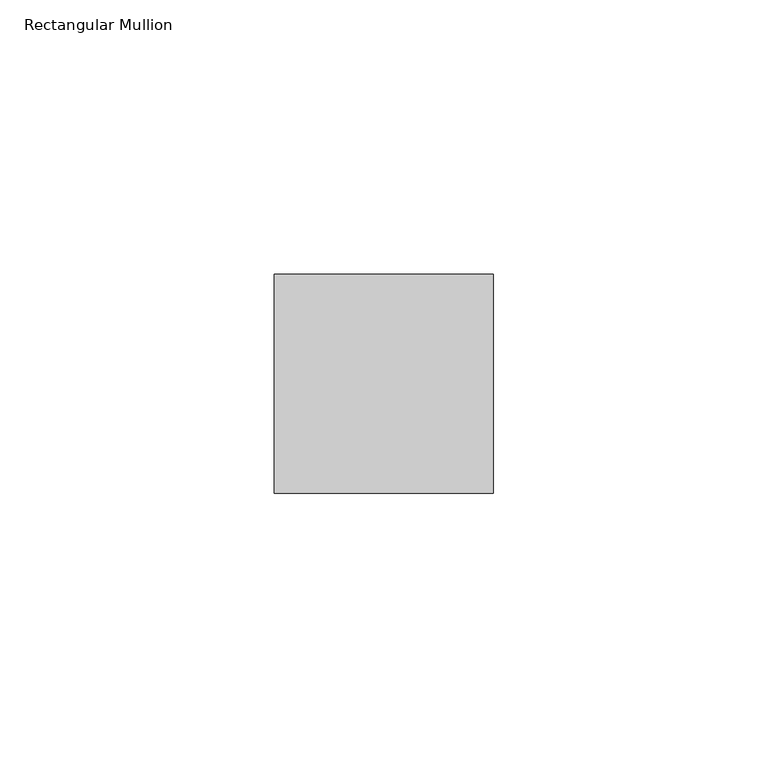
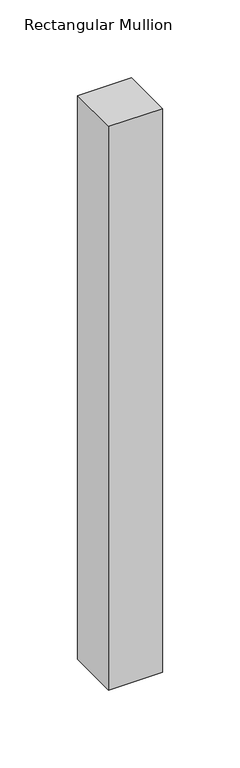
"""IFC4 building model written with IfcOpenShell, lengths in millimetres: member geometry, Rectangular Mullion : Danpal_NM_MiddleH-Mullion."""

import ifcopenshell
import ifcopenshell.guid

model = None  # the IFC model being written
_history = None  # IfcOwnerHistory: only IFC2X3 demands one
_inside = {}  # id of a spatial element -> (the spatial element, [elements in it])
_under = {}  # id of a project, library or spatial element -> (it, [spatial elements below it])
_declared = {}  # id of a project -> (the project, [libraries it declares])
_typed = {}  # id of a type object -> (the type object, [elements of that type])
_made_of = {}  # id of a material, layer set ... -> (it, [elements and type objects made of it])


def new_model(schema):
    """Start an empty IFC model of exactly this schema.

    Asked for "IFC4X3", IfcOpenShell would pick the latest addendum, in which some entities
    have other attributes; the version numbers below select the first issue.
    IFC2X3 requires an IfcOwnerHistory on every rooted entity: one is made here for all.
    """
    global model, _history
    if schema == "IFC4X3":
        model = ifcopenshell.file(schema_version=(4, 3, 0, 0))
    else:
        model = ifcopenshell.file(schema=schema)
    _inside.clear()
    _under.clear()
    _declared.clear()
    _typed.clear()
    _made_of.clear()
    _history = None
    if model.schema == "IFC2X3":
        org = make("IfcOrganization", Name="unknown")
        user = make(
            "IfcPersonAndOrganization",
            ThePerson=make("IfcPerson", FamilyName="unknown"),
            TheOrganization=org,
        )
        app = make(
            "IfcApplication",
            ApplicationDeveloper=org,
            Version="unknown",
            ApplicationFullName="unknown",
            ApplicationIdentifier="unknown",
        )
        _history = make(
            "IfcOwnerHistory",
            OwningUser=user,
            OwningApplication=app,
            ChangeAction="ADDED",
            CreationDate=0,
        )
    return model


def make(cls, **values):
    """One entity of the class cls with the attributes given. An attribute that is None is left unset."""
    return model.create_entity(
        cls, **{name: value for name, value in values.items() if value is not None}
    )


def rooted(cls, **values):
    """An entity with a GlobalId (a new one), such as an element, a storey or a relation."""
    return make(cls, GlobalId=ifcopenshell.guid.new(), OwnerHistory=_history, **values)


def si_unit(unit_type, name, prefix=None):
    """IfcSIUnit, for example si_unit("LENGTHUNIT", "METRE", prefix="MILLI")."""
    return make("IfcSIUnit", UnitType=unit_type, Prefix=prefix, Name=name)


def assignment(units):
    """IfcUnitAssignment: the units of a project."""
    return None if units is None else make("IfcUnitAssignment", Units=units)


def point(xyz):
    """IfcCartesianPoint."""
    return None if xyz is None else make("IfcCartesianPoint", Coordinates=xyz)


def direction(xyz):
    """IfcDirection."""
    return None if xyz is None else make("IfcDirection", DirectionRatios=xyz)


def frame(location, z_axis=None, x_axis=None):
    """IfcAxis2Placement3D, a coordinate frame: its origin and axes. An axis left out is left unset."""
    return make(
        "IfcAxis2Placement3D",
        Location=point(location),
        Axis=direction(z_axis),
        RefDirection=direction(x_axis),
    )


def origin():
    """The frame at (0, 0, 0) with its axes left unset."""
    return frame((0.0, 0.0, 0.0))


def place(relative_to, where):
    """IfcLocalPlacement: puts the frame where relative to a parent placement (None: the world)."""
    return make(
        "IfcLocalPlacement", PlacementRelTo=relative_to, RelativePlacement=where
    )


def context(
    kind, dimensions, precision=None, world=None, true_north=None, identifier=None
):
    """IfcGeometricRepresentationContext, for example the 3D "Model" context."""
    return make(
        "IfcGeometricRepresentationContext",
        ContextIdentifier=identifier,
        ContextType=kind,
        CoordinateSpaceDimension=dimensions,
        Precision=precision,
        WorldCoordinateSystem=world,
        TrueNorth=true_north,
    )


def project(units=None, contexts=None):
    """IfcProject with its units and contexts."""
    return rooted(
        "IfcProject",
        Name="project",
        RepresentationContexts=contexts,
        UnitsInContext=assignment(units),
    )


def spatial(cls, under=None, at=None, **own):
    """A site, building, storey or space (cls), placed at a placement, below another one or the project."""
    s = rooted(cls, ObjectPlacement=at, **own)
    if under is not None:
        _under.setdefault(under.id(), (under, []))[1].append(s)
    return s


def polyline(points):
    """IfcPolyline through the points."""
    return make("IfcPolyline", Points=[point(p) for p in points])


def outline(outer, holes=None, kind="AREA"):
    """IfcArbitraryClosedProfileDef: a profile drawn as a closed curve; with holes, ...WithVoids."""
    if holes is None:
        return make("IfcArbitraryClosedProfileDef", ProfileType=kind, OuterCurve=outer)
    return make(
        "IfcArbitraryProfileDefWithVoids",
        ProfileType=kind,
        OuterCurve=outer,
        InnerCurves=holes,
    )


def extrude(swept, where, along, depth):
    """IfcExtrudedAreaSolid: the profile swept, set in the frame where, extruded along a direction by depth."""
    return make(
        "IfcExtrudedAreaSolid",
        SweptArea=swept,
        Position=where,
        ExtrudedDirection=direction(along),
        Depth=depth,
    )


def shape(context_of_items, identifier, shape_type, items):
    """IfcShapeRepresentation: the items that make up one representation, for example the "Body"."""
    return make(
        "IfcShapeRepresentation",
        ContextOfItems=context_of_items,
        RepresentationIdentifier=identifier,
        RepresentationType=shape_type,
        Items=items,
    )


def source(mapping_origin, context_of_items, identifier, shape_type, items):
    """IfcRepresentationMap: a shape defined once, which mapped items show again and again."""
    return make(
        "IfcRepresentationMap",
        MappingOrigin=mapping_origin,
        MappedRepresentation=shape(context_of_items, identifier, shape_type, items),
    )


def transform(
    local_origin,
    x_axis=None,
    y_axis=None,
    z_axis=None,
    scale=None,
    scale2=None,
    scale3=None,
    uniform=True,
):
    """IfcCartesianTransformationOperator3D, or its non-uniform kind. x_axis, y_axis, z_axis: its Axis1, 2, 3."""
    if uniform:
        return make(
            "IfcCartesianTransformationOperator3D",
            Axis1=direction(x_axis),
            Axis2=direction(y_axis),
            LocalOrigin=point(local_origin),
            Scale=scale,
            Axis3=direction(z_axis),
        )
    return make(
        "IfcCartesianTransformationOperator3DnonUniform",
        Axis1=direction(x_axis),
        Axis2=direction(y_axis),
        LocalOrigin=point(local_origin),
        Scale=scale,
        Axis3=direction(z_axis),
        Scale2=scale2,
        Scale3=scale3,
    )


def mapped(mapping_source, mapping_target):
    """IfcMappedItem: shows the shape of a source again, moved by a transform."""
    return make(
        "IfcMappedItem", MappingSource=mapping_source, MappingTarget=mapping_target
    )


def made_of(thing, what):
    """Note that an element or type object is made of a material, layer set ...; save() writes the relation."""
    if what is not None:
        _made_of.setdefault(what.id(), (what, []))[1].append(thing)
    return thing


def element(
    cls,
    number,
    at=None,
    inside=None,
    cuts=None,
    type_object=None,
    material=None,
    context=None,
    identifier="Body",
    shape_type=None,
    held_by="IfcProductDefinitionShape",
    body=None,
    shapes=None,
    **own,
):
    """One element of the class cls, such as IfcWall. Its Tag is "e" and its number.

    at: its placement. inside: the storey or other place that contains it. cuts: it is an
    opening in that element (IfcRelVoidsElement). A single representation is given by context,
    identifier, shape_type and body (its items); several are given by shapes. held_by: the class
    of the entity that holds the representations. save() writes the other relations.
    """
    e = rooted(cls, Tag="e%d" % number, ObjectPlacement=at, **own)
    if body is not None:
        shapes = [shape(context, identifier, shape_type, body)]
    if shapes is not None:
        e.Representation = make(held_by, Representations=shapes)
    if inside is not None:
        _inside.setdefault(inside.id(), (inside, []))[1].append(e)
    if cuts is not None:
        rooted(
            "IfcRelVoidsElement", RelatingBuildingElement=cuts, RelatedOpeningElement=e
        )
    if type_object is not None:
        _typed.setdefault(type_object.id(), (type_object, []))[1].append(e)
    return made_of(e, material)


def aggregate(whole, parts):
    """IfcRelAggregates: a whole, such as a stair, and the parts it consists of."""
    return rooted("IfcRelAggregates", RelatingObject=whole, RelatedObjects=parts)


def save(model, path):
    """Write the relations noted so far, then the file.

    IfcRelAggregates (storeys below a building ...), IfcRelContainedInSpatialStructure (elements
    in a storey), IfcRelDefinesByType, IfcRelAssociatesMaterial and IfcRelDeclares: one each for
    every whole, place, type object, material and project.
    """
    for whole, parts in _under.values():
        aggregate(whole, parts)
    for where, things in _inside.values():
        rooted(
            "IfcRelContainedInSpatialStructure",
            RelatedElements=things,
            RelatingStructure=where,
        )
    for kind, things in _typed.values():
        rooted("IfcRelDefinesByType", RelatedObjects=things, RelatingType=kind)
    for what, things in _made_of.values():
        rooted("IfcRelAssociatesMaterial", RelatedObjects=things, RelatingMaterial=what)
    for by, libraries in _declared.values():
        rooted("IfcRelDeclares", RelatingContext=by, RelatedDefinitions=libraries)
    model.write(path)


def rectangular_mullion_ea144f86(model_context):
    return source(origin(), model_context, "Body", "SweptSolid", [
        extrude(outline(polyline([(0.0, 108.6621721), (0.0, 68.6621721), (-40.0, 68.6621721), (-40.0, 108.6621721), (0.0, 108.6621721)])), frame((0.0, 0.0, -442.658957), z_axis=(0.0, 0.0, 1.0), x_axis=(1.0, 0.0, 0.0)), (0.0, 0.0, 1.0), 442.658957),
    ])


if __name__ == "__main__":
    model = new_model("IFC4")
    model_context = context("Model", 3, world=origin())
    ifc_project = project(units=[si_unit("LENGTHUNIT", "METRE", prefix="MILLI")], contexts=[model_context])
    site = spatial("IfcSite", under=ifc_project)
    building = spatial("IfcBuilding", under=site)
    placement = place(None, origin())
    rectangular_mullion_shape = rectangular_mullion_ea144f86(model_context)
    element("IfcMember", 1, ObjectType="Rectangular Mullion : Danpal_NM_MiddleH-Mullion", at=placement, inside=building, context=model_context, shape_type="MappedRepresentation", body=[
        mapped(rectangular_mullion_shape, transform((0.0, 0.0, 0.0), x_axis=(1.0, 0.0, 0.0), y_axis=(0.0, 1.0, 0.0), z_axis=(0.0, 0.0, 1.0))),
    ])
    save(model, "model.ifc")
